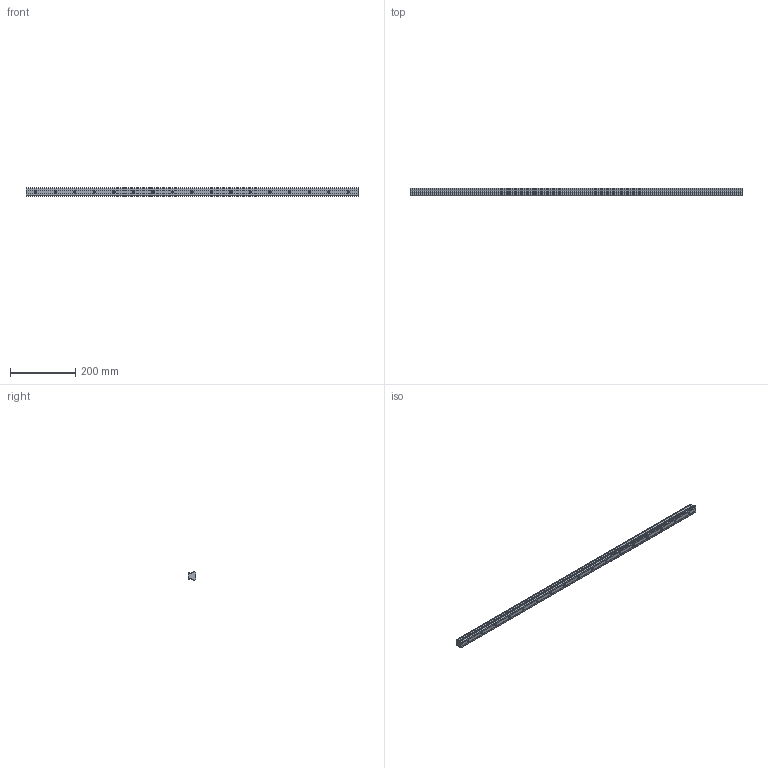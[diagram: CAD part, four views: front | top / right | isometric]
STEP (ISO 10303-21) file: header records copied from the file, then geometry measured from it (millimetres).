
FILE_DESCRIPTION (( 'STEP AP203' ), '1' );
FILE_NAME ('L1018.25R-1020.step', '2023-08-06T10:35:24', ( '' ), ( '' ), 'SwSTEP 2.0', 'SolidWorks 2019', '' );
FILE_SCHEMA (( 'CONFIG_CONTROL_DESIGN' ));
Length unit declared in the file: millimetre
Products named in the file (1): L1018.25R-1020
Bounding box: 1020 x 21.8 x 25 mm (x, y, z)
Volume: 424205.9 mm3; surface area: 102131 mm2
Topology: 1 solids, 1 shells, 182 faces, 421 edges, 241 vertices
Faces by surface type: cylinder 71, cone 68, plane 43
Entity records: 4976 total; most frequent: DIRECTION 929, CARTESIAN_POINT 811, ORIENTED_EDGE 774, EDGE_CURVE 387, AXIS2_PLACEMENT_3D 359, VERTEX_POINT 241, EDGE_LOOP 216, VECTOR 211
